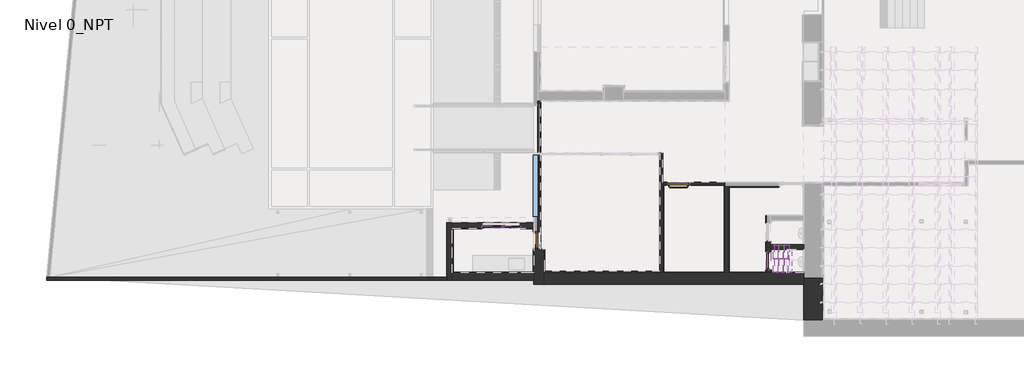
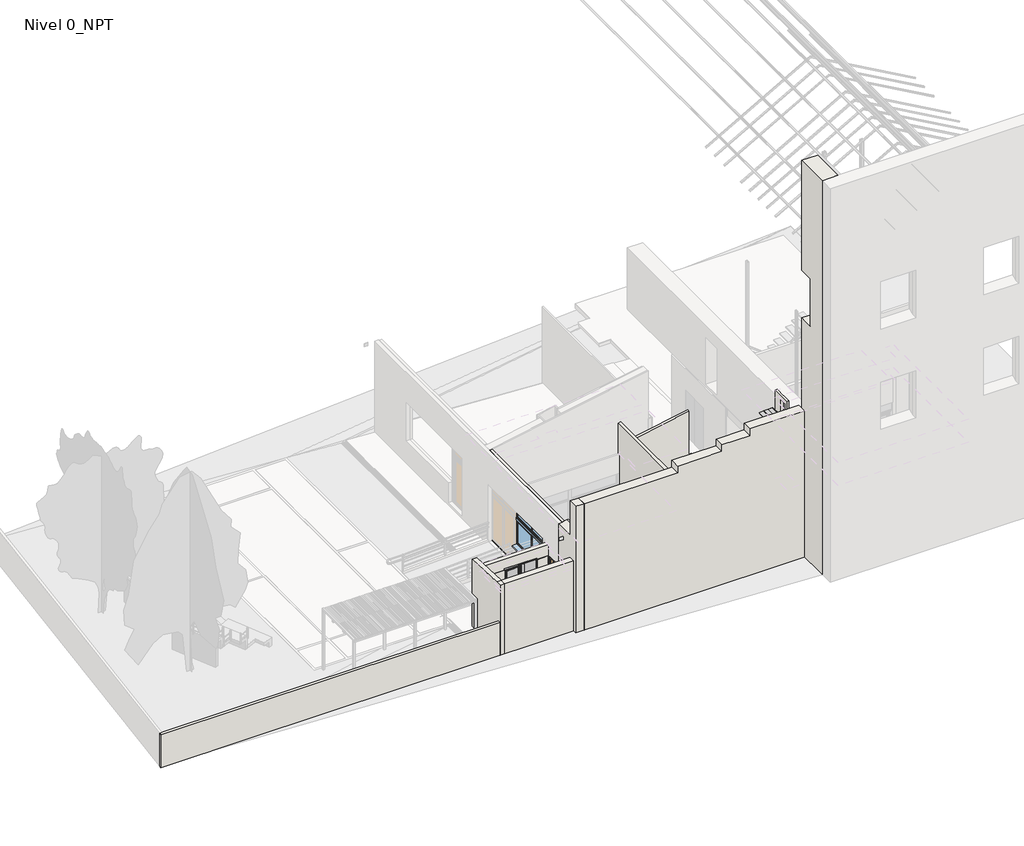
# One storey, part 1 of 10: 38 walls, 24 members, 8 plates, 3 doors, 1 window.
"""IFC4 building model written with IfcOpenShell, lengths in millimetres."""

from ifc_helpers import new_model, si_unit, frame, origin, origin_with_axes, place, context, project, spatial, polyline, outline, extrude, faceted_brep, transform, mapped, element, save
from components import door_fea13e06, door_210x90_cm_49e920ed, arq_pu_int_alu_muro_cortina_c3b06130, montante_rectangular_10x10_23ae108b, montante_rectangular_3x3_a8fc859d, montante_rectangular_3x3_8474d0b0, montante_rectangular_3x3_992bb8ce, montante_rectangular_3x3_9da3d00d, montante_rectangular_3x3_d5ae10cf, montante_rectangular_3x3_59b36da0, montante_rectangular_5x10_a55493a4, montante_rectangular_5x10_4e511d2b, montante_rectangular_5x5_ec66791f, montante_rectangular_5x5_64893cda, plate_993824d2, plate_9f408eec, panel_de_sistema_d2450c0d, window_1fa9ee35

model = new_model("IFC4")

# Units and contexts
model_context = context("Model", 3, world=origin())
ifc_project = project(units=[si_unit("LENGTHUNIT", "METRE", prefix="MILLI")], contexts=[model_context])

# Site, building, storey
site = spatial("IfcSite", under=ifc_project)
building = spatial("IfcBuilding", under=site)
storey = spatial("IfcBuildingStorey", under=building, Name="Nivel 0_NPT", Elevation=0.0)

# Doors
placement = place(None, origin())
door_shape = door_fea13e06(model_context)
element("IfcDoor", 1, ObjectType="ARQ-PU-INT-90x210-Mad-C2 : ARQ-PU-INT-65x210-Mad", at=placement, inside=storey, context=model_context, shape_type="MappedRepresentation", body=[
    mapped(door_shape, transform((-4410.1873738, -2911.3927727, 0.0), x_axis=(0.0, 1.0, 0.0), y_axis=(-1.0, 0.0, 0.0), z_axis=(0.0, 0.0, 1.0))),
])
door_210x90_cm_shape = door_210x90_cm_49e920ed(model_context)
element("IfcDoor", 2, ObjectType="ARQ-PU-IN-Barra accesible : 210x90 cm", at=placement, inside=storey, context=model_context, shape_type="MappedRepresentation", body=[
    mapped(door_210x90_cm_shape, transform((790.6524575, -831.4629444, 0.0), x_axis=(-1.0, 0.0, 0.0), y_axis=(0.0, -1.0, 0.0), z_axis=(0.0, 0.0, 1.0))),
])
arq_pu_int_alu_muro_cortina_shape = arq_pu_int_alu_muro_cortina_c3b06130(model_context)
element("IfcDoor", 3, ObjectType="ARQ-PU-INT-Alu (muro cortina) : ARQ-PU-IN-Alu-sshh", at=placement, inside=storey, context=model_context, shape_type="MappedRepresentation", body=[
    mapped(arq_pu_int_alu_muro_cortina_shape, transform((4064.8126262, -3646.3790831, 320.0), x_axis=(0.0, -1.0, 0.0), y_axis=(1.0, 0.0, 0.0), z_axis=(0.0, 0.0, 1.0))),
])

# Members
montante_rectangular_10x10_shape = montante_rectangular_10x10_23ae108b(model_context)
element("IfcMember", 4, ObjectType="Montante rectangular : 10x10", at=placement, inside=storey, context=model_context, shape_type="MappedRepresentation", body=[
    mapped(montante_rectangular_10x10_shape, transform((-5625.1873738, -2416.3927727, -20.0), x_axis=(1.0, 0.0, 0.0), y_axis=(0.0, -1.0, 0.0), z_axis=(0.0, 0.0, -1.0))),
])
montante_rectangular_3x3_shape = montante_rectangular_3x3_a8fc859d(model_context)
element("IfcMember", 5, ObjectType="Montante rectangular : 3x3", at=placement, inside=storey, context=model_context, shape_type="MappedRepresentation", body=[
    mapped(montante_rectangular_3x3_shape, transform((4631.1307282, -4056.3927727, 5878.4104569), x_axis=(-0.9982048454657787, 0.0, -0.059892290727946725), y_axis=(0.059892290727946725, 0.0, -0.9982048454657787), z_axis=(0.0, -1.0, 0.0))),
])
element("IfcMember", 6, ObjectType="Montante rectangular : 3x3", at=placement, inside=storey, context=model_context, shape_type="MappedRepresentation", body=[
    mapped(montante_rectangular_3x3_shape, transform((4437.9716772, -4056.3927727, 5866.8209139), x_axis=(-0.9982048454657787, 0.0, -0.059892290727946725), y_axis=(0.059892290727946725, 0.0, -0.9982048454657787), z_axis=(0.0, -1.0, 0.0))),
])
element("IfcMember", 7, ObjectType="Montante rectangular : 3x3", at=placement, inside=storey, context=model_context, shape_type="MappedRepresentation", body=[
    mapped(montante_rectangular_3x3_shape, transform((4631.1307282, -3579.3427727, 5878.4104569), x_axis=(-0.9982048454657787, 0.0, -0.059892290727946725), y_axis=(0.059892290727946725, 0.0, -0.9982048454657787), z_axis=(0.0, -1.0, 0.0))),
])
element("IfcMember", 8, ObjectType="Montante rectangular : 3x3", at=placement, inside=storey, context=model_context, shape_type="MappedRepresentation", body=[
    mapped(montante_rectangular_3x3_shape, transform((4437.9716772, -3579.3427727, 5866.8209139), x_axis=(-0.9982048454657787, 0.0, -0.059892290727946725), y_axis=(0.059892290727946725, 0.0, -0.9982048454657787), z_axis=(0.0, -1.0, 0.0))),
])
montante_rectangular_3x3_2_shape = montante_rectangular_3x3_8474d0b0(model_context)
element("IfcMember", 9, ObjectType="Montante rectangular : 3x3", at=placement, inside=storey, context=model_context, shape_type="MappedRepresentation", body=[
    mapped(montante_rectangular_3x3_2_shape, transform((4274.7587716, -3579.3427727, 5857.0281395), x_axis=(0.0, 1.0, 0.0), y_axis=(0.05989229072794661, 0.0, -0.9982048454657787), z_axis=(-0.9982048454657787, 0.0, -0.05989229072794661))),
])
element("IfcMember", 10, ObjectType="Montante rectangular : 3x3", at=placement, inside=storey, context=model_context, shape_type="MappedRepresentation", body=[
    mapped(montante_rectangular_3x3_2_shape, transform((4646.1038009, -3579.3427727, 5879.3088413), x_axis=(0.0, 1.0, 0.0), y_axis=(0.05989229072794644, 0.0, -0.9982048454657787), z_axis=(-0.9982048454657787, 0.0, -0.05989229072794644))),
])
montante_rectangular_3x3_3_shape = montante_rectangular_3x3_992bb8ce(model_context)
element("IfcMember", 11, ObjectType="Montante rectangular : 3x3", at=placement, inside=storey, context=model_context, shape_type="MappedRepresentation", body=[
    mapped(montante_rectangular_3x3_3_shape, transform((4452.9447499, -3579.3427727, 5867.7192982), x_axis=(0.0, 1.0, 0.0), y_axis=(0.05989229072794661, 0.0, -0.9982048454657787), z_axis=(-0.9982048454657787, 0.0, -0.05989229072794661))),
])
montante_rectangular_3x3_4_shape = montante_rectangular_3x3_9da3d00d(model_context)
element("IfcMember", 12, ObjectType="Montante rectangular : 3x3", at=placement, inside=storey, context=model_context, shape_type="MappedRepresentation", body=[
    mapped(montante_rectangular_3x3_4_shape, transform((4824.2897792, -3072.2927727, 5890.0), x_axis=(0.9982048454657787, 0.0, 0.059892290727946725), y_axis=(0.059892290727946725, 0.0, -0.9982048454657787), z_axis=(0.0, 1.0, 0.0))),
])
element("IfcMember", 13, ObjectType="Montante rectangular : 3x3", at=placement, inside=storey, context=model_context, shape_type="MappedRepresentation", body=[
    mapped(montante_rectangular_3x3_4_shape, transform((4244.8126262, -4086.3927727, 5855.2313708), x_axis=(-0.9982048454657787, 0.0, -0.059892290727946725), y_axis=(0.059892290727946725, 0.0, -0.9982048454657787), z_axis=(0.0, -1.0, 0.0))),
])
montante_rectangular_3x3_5_shape = montante_rectangular_3x3_d5ae10cf(model_context)
element("IfcMember", 14, ObjectType="Montante rectangular : 3x3", at=placement, inside=storey, context=model_context, shape_type="MappedRepresentation", body=[
    mapped(montante_rectangular_3x3_5_shape, transform((4794.3436338, -4086.3927727, 5888.2032313), x_axis=(0.0, -1.0, 0.0), y_axis=(0.05989229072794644, 0.0, -0.9982048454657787), z_axis=(0.9982048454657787, 0.0, 0.05989229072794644))),
])
element("IfcMember", 15, ObjectType="Montante rectangular : 3x3", at=placement, inside=storey, context=model_context, shape_type="MappedRepresentation", body=[
    mapped(montante_rectangular_3x3_5_shape, transform((4274.7587716, -3072.2927727, 5857.0281395), x_axis=(0.0, 1.0, 0.0), y_axis=(0.05989229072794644, 0.0, -0.9982048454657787), z_axis=(-0.9982048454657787, 0.0, -0.05989229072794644))),
])
montante_rectangular_3x3_6_shape = montante_rectangular_3x3_59b36da0(model_context)
element("IfcMember", 16, ObjectType="Montante rectangular : 3x3", at=placement, inside=storey, context=model_context, shape_type="MappedRepresentation", body=[
    mapped(montante_rectangular_3x3_6_shape, transform((4631.1307282, -4086.3927727, 5878.4104569), x_axis=(0.0, -1.0, 0.0), y_axis=(0.05989229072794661, 0.0, -0.9982048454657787), z_axis=(0.9982048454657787, 0.0, 0.05989229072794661))),
])
element("IfcMember", 17, ObjectType="Montante rectangular : 3x3", at=placement, inside=storey, context=model_context, shape_type="MappedRepresentation", body=[
    mapped(montante_rectangular_3x3_6_shape, transform((4437.9716772, -3072.2927727, 5866.8209139), x_axis=(0.0, 1.0, 0.0), y_axis=(0.05989229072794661, 0.0, -0.9982048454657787), z_axis=(-0.9982048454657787, 0.0, -0.05989229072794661))),
])
element("IfcMember", 18, ObjectType="Montante rectangular : 3x3", at=placement, inside=storey, context=model_context, shape_type="MappedRepresentation", body=[
    mapped(montante_rectangular_3x3_5_shape, transform((4437.9716772, -4086.3927727, 5866.8209139), x_axis=(0.0, -1.0, 0.0), y_axis=(0.05989229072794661, 0.0, -0.9982048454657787), z_axis=(0.9982048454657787, 0.0, 0.05989229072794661))),
])
element("IfcMember", 19, ObjectType="Montante rectangular : 3x3", at=placement, inside=storey, context=model_context, shape_type="MappedRepresentation", body=[
    mapped(montante_rectangular_3x3_5_shape, transform((4631.1307282, -3072.2927727, 5878.4104569), x_axis=(0.0, 1.0, 0.0), y_axis=(0.05989229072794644, 0.0, -0.9982048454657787), z_axis=(-0.9982048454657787, 0.0, -0.05989229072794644))),
])
element("IfcMember", 20, ObjectType="Montante rectangular : 3x3", at=placement, inside=storey, context=model_context, shape_type="MappedRepresentation", body=[
    mapped(montante_rectangular_3x3_4_shape, transform((4244.8126262, -3579.3427727, 5855.2313708), x_axis=(-0.9982048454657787, 0.0, -0.059892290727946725), y_axis=(0.059892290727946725, 0.0, -0.9982048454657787), z_axis=(0.0, -1.0, 0.0))),
])
element("IfcMember", 21, ObjectType="Montante rectangular : 3x3", at=placement, inside=storey, context=model_context, shape_type="MappedRepresentation", body=[
    mapped(montante_rectangular_3x3_4_shape, transform((4824.2897792, -3579.3427727, 5890.0), x_axis=(0.9982048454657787, 0.0, 0.059892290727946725), y_axis=(0.059892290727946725, 0.0, -0.9982048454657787), z_axis=(0.0, 1.0, 0.0))),
])
montante_rectangular_5x10_shape = montante_rectangular_5x10_a55493a4(model_context)
element("IfcMember", 22, ObjectType="Montante rectangular : 5x10", at=placement, inside=storey, context=model_context, shape_type="MappedRepresentation", body=[
    mapped(montante_rectangular_5x10_shape, transform((-4975.1873738, -2416.3927727, 2130.0), x_axis=(0.0, 0.0, 1.0), y_axis=(0.0, -1.0, 0.0), z_axis=(1.0, 0.0, 0.0))),
])
montante_rectangular_5x10_2_shape = montante_rectangular_5x10_4e511d2b(model_context)
element("IfcMember", 23, ObjectType="Montante rectangular : 5x10", at=placement, inside=storey, context=model_context, shape_type="MappedRepresentation", body=[
    mapped(montante_rectangular_5x10_2_shape, transform((-5625.1873738, -2416.3927727, 2130.0), x_axis=(0.0, 0.0, 1.0), y_axis=(0.0, -1.0, 0.0), z_axis=(1.0, 0.0, 0.0))),
])
montante_rectangular_5x5_shape = montante_rectangular_5x5_ec66791f(model_context)
element("IfcMember", 24, ObjectType="Montante rectangular : 5x5", at=placement, inside=storey, context=model_context, shape_type="MappedRepresentation", body=[
    mapped(montante_rectangular_5x5_shape, transform((4064.8126262, -3321.3927727, 0.0), x_axis=(0.0, 1.0, 0.0), y_axis=(1.0, 0.0, 0.0), z_axis=(0.0, 0.0, -1.0))),
])
element("IfcMember", 25, ObjectType="Montante rectangular : 5x5", at=placement, inside=storey, context=model_context, shape_type="MappedRepresentation", body=[
    mapped(montante_rectangular_5x5_shape, transform((4064.8126262, -3971.3653936, 320.0), x_axis=(0.0, -1.0, 0.0), y_axis=(1.0, 0.0, 0.0), z_axis=(0.0, 0.0, 1.0))),
])
montante_rectangular_5x5_2_shape = montante_rectangular_5x5_64893cda(model_context)
element("IfcMember", 26, ObjectType="Montante rectangular : 5x5", at=placement, inside=storey, context=model_context, shape_type="MappedRepresentation", body=[
    mapped(montante_rectangular_5x5_2_shape, transform((4064.8126262, -3971.3653936, 2100.0), x_axis=(0.0, -1.0, 0.0), y_axis=(1.0, 0.0, 0.0), z_axis=(0.0, 0.0, 1.0))),
])
element("IfcMember", 27, ObjectType="Montante rectangular : 5x5", at=placement, inside=storey, context=model_context, shape_type="MappedRepresentation", body=[
    mapped(montante_rectangular_5x5_2_shape, transform((4064.8126262, -3321.3927727, 320.0), x_axis=(0.0, 1.0, 0.0), y_axis=(1.0, 0.0, 0.0), z_axis=(0.0, 0.0, -1.0))),
])

# Plates
plate_shape = plate_993824d2(model_context)
element("IfcPlate", 28, ObjectType="ARQ-PA-IN-Vidrio Fijo : ARQ-PA-IN-Vidrio Fijo", at=placement, inside=storey, context=model_context, shape_type="MappedRepresentation", body=[
    mapped(plate_shape, transform((-5250.1873738, -2416.3927727, -20.0), x_axis=(1.0, 0.0, 0.0), y_axis=(0.0, 1.0, 0.0), z_axis=(0.0, 0.0, 1.0))),
])
plate_2_shape = plate_9f408eec(model_context)
element("IfcPlate", 29, ObjectType="ARQ-PA-IN-AluVid-Puerta : ARQ-PA-IN-AluVid-Puerta", at=placement, inside=storey, context=model_context, shape_type="MappedRepresentation", body=[
    mapped(plate_2_shape, transform((-6000.1873738, -2416.3927727, -20.0), x_axis=(-1.0, 0.0, 0.0), y_axis=(0.0, -1.0, 0.0), z_axis=(0.0, 0.0, 1.0))),
])
panel_de_sistema_shape = panel_de_sistema_d2450c0d(model_context)
element("IfcPlate", 30, ObjectType="Panel de sistema : Acristalado Superor", at=placement, inside=storey, context=model_context, shape_type="MappedRepresentation", body=[
    mapped(panel_de_sistema_shape, transform((4824.2897792, -3832.8677727, 5890.0), x_axis=(0.0, 1.0, 0.0), y_axis=(0.059892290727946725, 0.0, -0.9982048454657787), z_axis=(-0.9982048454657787, 0.0, -0.059892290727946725))),
])
element("IfcPlate", 31, ObjectType="Panel de sistema : Acristalado Superor", at=placement, inside=storey, context=model_context, shape_type="MappedRepresentation", body=[
    mapped(panel_de_sistema_shape, transform((4631.1307282, -3832.8677727, 5878.4104569), x_axis=(0.0, 1.0, 0.0), y_axis=(0.059892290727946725, 0.0, -0.9982048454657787), z_axis=(-0.9982048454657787, 0.0, -0.059892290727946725))),
])
element("IfcPlate", 32, ObjectType="Panel de sistema : Acristalado Superor", at=placement, inside=storey, context=model_context, shape_type="MappedRepresentation", body=[
    mapped(panel_de_sistema_shape, transform((4437.9716772, -3832.8677727, 5866.8209139), x_axis=(0.0, 1.0, 0.0), y_axis=(0.059892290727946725, 0.0, -0.9982048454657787), z_axis=(-0.9982048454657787, 0.0, -0.059892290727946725))),
])
element("IfcPlate", 33, ObjectType="Panel de sistema : Acristalado Superor", at=placement, inside=storey, context=model_context, shape_type="MappedRepresentation", body=[
    mapped(panel_de_sistema_shape, transform((4824.2897792, -3325.8177727, 5890.0), x_axis=(0.0, 1.0, 0.0), y_axis=(0.059892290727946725, 0.0, -0.9982048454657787), z_axis=(-0.9982048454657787, 0.0, -0.059892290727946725))),
])
element("IfcPlate", 34, ObjectType="Panel de sistema : Acristalado Superor", at=placement, inside=storey, context=model_context, shape_type="MappedRepresentation", body=[
    mapped(panel_de_sistema_shape, transform((4631.1307282, -3325.8177727, 5878.4104569), x_axis=(0.0, 1.0, 0.0), y_axis=(0.059892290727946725, 0.0, -0.9982048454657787), z_axis=(-0.9982048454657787, 0.0, -0.059892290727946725))),
])
element("IfcPlate", 35, ObjectType="Panel de sistema : Acristalado Superor", at=placement, inside=storey, context=model_context, shape_type="MappedRepresentation", body=[
    mapped(panel_de_sistema_shape, transform((4437.9716772, -3325.8177727, 5866.8209139), x_axis=(0.0, 1.0, 0.0), y_axis=(0.059892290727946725, 0.0, -0.9982048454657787), z_axis=(-0.9982048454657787, 0.0, -0.059892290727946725))),
])

# Walls
element("IfcWall", 36, ObjectType="ARQ-MU-IN-15-Gen", at=placement, inside=storey, context=model_context, shape_type="Brep", body=[
    faceted_brep([(2624.8126262, -4086.3927727, 0.0), (2624.8126262, -4066.3927727, 0.0), (2624.8126262, -956.4629444, 0.0), (2624.8126262, -956.4629444, 3060.0), (2624.8126262, -781.4629444, 3060.0), (2624.8126262, -781.4629444, 3210.0), (2624.8126262, -4086.3927727, 3210.0), (2624.8126262, -4086.3927727, 2100.0), (2474.8126262, -4086.3927727, 0.0), (2474.8126262, -4086.3927727, 3210.0), (2474.8126262, -781.4629444, 3210.0), (2474.8126262, -781.4629444, 3060.0), (2474.8126262, -806.4629444, 3060.0), (2474.8126262, -956.4629444, 3060.0), (2474.8126262, -956.4629444, 0.0)], [[[0, 1, 2, 3, 4, 5, 6, 7]], [[8, 9, 10, 11, 12, 13, 14]], [[2, 1, 0, 8, 14]], [[6, 5, 10, 9]], [[0, 7, 6, 9, 8]], [[11, 4, 3, 13, 12]], [[3, 2, 14, 13]], [[5, 4, 11, 10]]]),
])
element("IfcWall", 37, ObjectType="ARQ-MU-EX-20-Gen", at=placement, inside=storey, context=model_context, shape_type="Brep", body=[
    faceted_brep([(-7445.1873738, -4356.3927727, 2980.0), (-7445.1873738, -4356.3927727, -200.0), (-7445.1873738, -4086.3927727, -200.0), (-7445.1873738, -2466.3927727, -200.0), (-7445.1873738, -2266.3927727, -200.0), (-7445.1873738, -2266.3927727, 2552.0), (-7445.1873738, -2266.3927727, 2889.0), (-7445.1873738, -4086.3927727, 2980.0), (-7645.1873738, -4356.3927727, -200.0), (-7645.1873738, -4356.3927727, 1300.0), (-7645.1873738, -4356.3927727, 2980.0), (-7645.1873738, -4086.3927727, 2980.0), (-7645.1873738, -2266.3927727, 2889.0), (-7645.1873738, -2266.3927727, -200.0), (-7645.1873738, -4256.3927727, -200.0)], [[[0, 1, 2, 3, 4, 5, 6, 7]], [[8, 9, 10, 11, 12, 13, 14]], [[6, 5, 4, 13, 12]], [[0, 10, 9, 8, 1]], [[4, 3, 2, 1, 8, 14, 13]], [[0, 7, 11, 10]], [[7, 6, 12, 11]]]),
])
element("IfcWall", 38, ObjectType="ARQ-MU-EX-20-Gen", at=placement, inside=storey, context=model_context, shape_type="Brep", body=[
    faceted_brep([(-7445.1873738, -2466.3927727, -200.0), (-4485.1873738, -2466.3927727, -200.0), (-4485.1873738, -2466.3927727, 2562.0), (-7445.1873738, -2466.3927727, 2562.0), (-6375.1873738, -2466.3927727, -20.0), (-6375.1873738, -2466.3927727, 2130.0), (-4975.1873738, -2466.3927727, 2130.0), (-4975.1873738, -2466.3927727, -20.0), (-4485.1873738, -2266.3927727, -200.0), (-7445.1873738, -2266.3927727, -200.0), (-7445.1873738, -2266.3927727, 2552.0), (-4485.1873738, -2266.3927727, 2552.0), (-6375.1873738, -2266.3927727, 2130.0), (-6375.1873738, -2266.3927727, -20.0), (-4975.1873738, -2266.3927727, -20.0), (-4975.1873738, -2266.3927727, 2130.0)], [[[0, 1, 2, 3], [4, 5, 6, 7]], [[8, 9, 10, 11], [12, 13, 14, 15]], [[1, 0, 9, 8]], [[0, 3, 10, 9]], [[2, 1, 8, 11]], [[3, 2, 11, 10]], [[4, 13, 12, 5]], [[6, 15, 14, 7]], [[13, 4, 7, 14]], [[15, 6, 5, 12]]]),
])
element("IfcWall", 39, ObjectType="ARQ-MU-EX-68-Lad", at=placement, inside=storey, context=model_context, shape_type="Brep", body=[
    faceted_brep([(5354.2897792, -4086.3927727, -200.0), (5354.2897792, -4506.3927727, -200.0), (5354.2897792, -5806.3671234, -200.0), (5354.2897792, -5806.3671234, 17700.0), (5354.2897792, -4296.3927727, 17700.0), (5354.2897792, -4296.3927727, 12700.0), (5354.2897792, -4936.3927727, 12700.0), (5354.2897792, -4936.3927727, 10550.0), (5354.2897792, -4296.3927727, 10550.0), (5354.2897792, -4296.3927727, 5840.0), (5354.2897792, -4296.3927727, -20.0), (5354.2897792, -4086.3927727, -20.0), (6034.2897792, -5806.3671234, -200.0), (6034.2897792, -4086.3927727, -200.0), (6034.2897792, -4086.3927727, -20.0), (6034.2897792, -4296.3927727, -20.0), (6034.2897792, -4296.3927727, 5840.0), (6034.2897792, -4296.3927727, 10550.0), (6034.2897792, -5016.285522, 10550.0), (6034.2897792, -5016.285522, 12700.0), (6034.2897792, -4296.3927727, 12700.0), (6034.2897792, -4296.3927727, 17700.0), (6034.2897792, -5806.3671234, 17700.0), (5644.8126262, -4936.3927727, 12700.0), (5644.8126262, -4936.3927727, 10550.0)], [[[0, 1, 2, 3, 4, 5, 6, 7, 8, 9, 10, 11]], [[12, 13, 14, 15, 16, 17, 18, 19, 20, 21, 22]], [[3, 2, 12, 22]], [[0, 11, 14, 13]], [[6, 5, 20, 19, 23]], [[7, 6, 23, 24]], [[8, 7, 24, 18, 17]], [[2, 1, 0, 13, 12]], [[4, 3, 22, 21]], [[10, 15, 14, 11]], [[15, 10, 9, 8, 17, 16]], [[4, 21, 20, 5]], [[23, 19, 18, 24]]]),
])
element("IfcWall", 40, ObjectType="ARQ-MU-EX-42-Gen", at=placement, inside=storey, context=model_context, shape_type="Brep", body=[
    faceted_brep([(-4125.1873738, -4506.3927727, -200.0), (5354.2897792, -4506.3927727, -200.0), (5354.2897792, -4506.3927727, 6450.0), (2994.2897792, -4506.3927727, 6450.0), (2994.2897792, -4506.3927727, 6150.0), (1794.2897792, -4506.3927727, 6150.0), (1794.2897792, -4506.3927727, 5850.0), (-105.7102208, -4506.3927727, 5850.0), (-105.7102208, -4506.3927727, 5550.0), (-4125.1873738, -4506.3927727, 5550.0), (5354.2897792, -4086.3927727, -200.0), (-4125.1873738, -4086.3927727, -200.0), (-4125.1873738, -4086.3927727, -20.0), (-4125.1873738, -4086.3927727, 0.0), (-4125.1873738, -4086.3927727, 4048.8), (-4125.1873738, -4086.3927727, 5550.0), (-105.7102208, -4086.3927727, 5550.0), (-105.7102208, -4086.3927727, 5850.0), (1794.2897792, -4086.3927727, 5850.0), (1794.2897792, -4086.3927727, 6150.0), (2994.2897792, -4086.3927727, 6150.0), (2994.2897792, -4086.3927727, 6450.0), (5354.2897792, -4086.3927727, 6450.0), (5354.2897792, -4086.3927727, 2100.0), (5354.2897792, -4086.3927727, 0.0), (5354.2897792, -4086.3927727, -20.0)], [[[0, 1, 2, 3, 4, 5, 6, 7, 8, 9]], [[10, 11, 12, 13, 14, 15, 16, 17, 18, 19, 20, 21, 22, 23, 24, 25]], [[0, 9, 15, 14, 13, 12, 11]], [[2, 1, 10, 25, 24, 23, 22]], [[1, 0, 11, 10]], [[3, 2, 22, 21]], [[4, 3, 21, 20]], [[5, 4, 20, 19]], [[6, 5, 19, 18]], [[7, 6, 18, 17]], [[8, 7, 17, 16]], [[9, 8, 16, 15]]]),
])
element("IfcWall", 41, ObjectType="ARQ-MU-IN-17-Gen", at=placement, inside=storey, context=model_context, shape_type="Brep", body=[
    faceted_brep([(4154.8126262, -4086.3927727, 3060.0), (4154.8126262, -4086.3927727, 2100.0), (4154.8126262, -4086.3927727, 0.0), (4154.8126262, -4066.3927727, 0.0), (4154.8126262, -3971.3653936, 0.0), (4154.8126262, -3971.3653936, 2400.0), (4154.8126262, -3971.3653936, 3060.0), (3984.8126262, -4086.3927727, 0.0), (3984.8126262, -4086.3927727, 2100.0), (3984.8126262, -4086.3927727, 3060.0), (3984.8126262, -3971.3653936, 3060.0), (3984.8126262, -3971.3653936, 2400.0), (3984.8126262, -3971.3653936, 0.0), (3984.8126262, -4066.3927727, 0.0)], [[[0, 1, 2, 3, 4, 5, 6]], [[7, 8, 9, 10, 11, 12, 13]], [[4, 3, 2, 7, 13, 12]], [[6, 5, 4, 12, 11, 10]], [[0, 6, 10, 9]], [[0, 9, 8, 7, 2, 1]]]),
])
element("IfcWall", 42, ObjectType="ARQ-MU-IN-16-Gen", at=placement, inside=storey, context=model_context, shape_type="Brep", body=[
    faceted_brep([(5354.2897792, -3066.3927727, 0.0), (4144.8126262, -3066.3927727, 0.0), (4144.8126262, -3066.3927727, 3060.0), (5354.2897792, -3066.3927727, 3060.0), (5242.2635825, -3066.3927727, 2962.0), (4842.2635825, -3066.3927727, 2962.0), (4842.2635825, -3066.3927727, 2812.0), (5242.2635825, -3066.3927727, 2812.0), (5354.2897792, -3226.3927727, 0.0), (5354.2897792, -3226.3927727, 3060.0), (4154.8126262, -3226.3927727, 3060.0), (4154.8126262, -3226.3927727, 2100.0), (4154.8126262, -3226.3927727, 0.0), (4174.8126262, -3226.3927727, 0.0), (5242.2635825, -3226.3927727, 2962.0), (5242.2635825, -3226.3927727, 2812.0), (4842.2635825, -3226.3927727, 2812.0), (4842.2635825, -3226.3927727, 2962.0), (4144.8126262, -3146.3927727, 0.0), (4144.8126262, -3146.3927727, 3060.0), (4154.8126262, -3146.3927727, 0.0), (4154.8126262, -3146.3927727, 3060.0)], [[[0, 1, 2, 3], [4, 5, 6, 7]], [[8, 9, 10, 11, 12, 13], [14, 15, 16, 17]], [[0, 3, 9, 8]], [[2, 1, 18, 19]], [[1, 0, 8, 13, 12, 20, 18]], [[3, 2, 19, 21, 10, 9]], [[18, 20, 21, 19]], [[20, 12, 11, 10, 21]], [[5, 4, 14, 17]], [[6, 5, 17, 16]], [[7, 6, 16, 15]], [[4, 7, 15, 14]]]),
])
element("IfcWall", 43, ObjectType="ARQ-MU-IN-16-Gen", at=placement, inside=storey, context=model_context, shape_type="Brep", body=[
    faceted_brep([(4144.8126262, -3146.3927727, 0.0), (4144.8126262, -3066.3927727, 0.0), (4144.8126262, -2931.3927727, 0.0), (4144.8126262, -2931.3927727, 2400.0), (4144.8126262, -2931.3927727, 3060.0), (4144.8126262, -3066.3927727, 3060.0), (4144.8126262, -3146.3927727, 3060.0), (3984.8126262, -3146.3927727, 0.0), (3984.8126262, -3146.3927727, 3060.0), (3984.8126262, -2931.3927727, 3060.0), (3984.8126262, -2931.3927727, 0.0)], [[[0, 1, 2, 3, 4, 5, 6]], [[7, 8, 9, 10]], [[2, 1, 0, 7, 10]], [[4, 3, 2, 10, 9]], [[6, 5, 4, 9, 8]], [[0, 6, 8, 7]]]),
])
element("IfcWall", 44, ObjectType="ARQ-MU-EX-36-Gen", at=placement, inside=storey, context=model_context, shape_type="Brep", body=[
    faceted_brep([(-4485.1873738, -3236.3927727, 3984.0), (-4485.1873738, -3236.3927727, 2100.0), (-4485.1873738, -3236.3927727, 0.0), (-4485.1873738, -3236.3927727, -200.0), (-4485.1873738, -4086.3927727, -200.0), (-4485.1873738, -4356.3927727, -200.0), (-4485.1873738, -4506.3927727, -200.0), (-4485.1873738, -4506.3927727, 5550.0), (-4485.1873738, -4086.3927727, 5550.0), (-4485.1873738, -4086.3927727, 3984.0), (-4125.1873738, -3236.3927727, -200.0), (-4125.1873738, -3236.3927727, 4048.8), (-4125.1873738, -4086.3927727, 4048.8), (-4125.1873738, -4086.3927727, 5550.0), (-4125.1873738, -4506.3927727, 5550.0), (-4125.1873738, -4506.3927727, -200.0), (-4125.1873738, -4086.3927727, -200.0), (-4335.1873738, -3236.3927727, -200.0), (-4235.1873738, -3236.3927727, 4029.0), (-4335.1873738, -3236.3927727, 4011.0)], [[[0, 1, 2, 3, 4, 5, 6, 7, 8, 9]], [[10, 11, 12, 13, 14, 15, 16]], [[6, 5, 4, 3, 17, 10, 16, 15]], [[8, 7, 14, 13]], [[8, 13, 12, 9]], [[0, 9, 12, 11, 18, 19]], [[7, 6, 15, 14]], [[0, 19, 18, 11, 10, 17, 3, 2, 1]]]),
])
element("IfcWall", 45, ObjectType="ARQ-MU-EX-10-Gen", at=placement, inside=storey, context=model_context, shape_type="Brep", body=[
    faceted_brep([(-7645.1873738, -4256.3927727, -200.0), (-22128.8255038, -4256.3927727, -200.0), (-22229.281246, -4256.3927727, -200.0), (-22229.281246, -4256.3927727, 1300.0), (-22128.8255038, -4256.3927727, 1300.0), (-7645.1873738, -4256.3927727, 1300.0), (-7645.1873738, -4356.3927727, -200.0), (-7645.1873738, -4356.3927727, 1300.0), (-22238.8392862, -4356.3927727, 1300.0), (-22238.8392862, -4356.3927727, -200.0)], [[[0, 1, 2, 3, 4, 5]], [[6, 7, 8, 9]], [[2, 1, 0, 6, 9]], [[5, 4, 3, 8, 7]], [[3, 2, 9, 8]], [[0, 5, 7, 6]]]),
])
element("IfcWall", 46, ObjectType="ARQ-MU-IN-17-Gen", at=placement, inside=storey, context=model_context, shape_type="Brep", body=[
    faceted_brep([(3984.8126262, -3146.3927727, 0.0), (3984.8126262, -3321.3927727, 0.0), (3984.8126262, -3321.3927727, 2400.0), (3984.8126262, -3321.3927727, 3060.0), (3984.8126262, -3146.3927727, 3060.0), (4154.8126262, -3146.3927727, 0.0), (4154.8126262, -3146.3927727, 3060.0), (4154.8126262, -3226.3927727, 3060.0), (4154.8126262, -3321.3927727, 3060.0), (4154.8126262, -3321.3927727, 2400.0), (4154.8126262, -3321.3927727, 0.0), (4154.8126262, -3226.3927727, 0.0), (4144.8126262, -3146.3927727, 0.0), (4144.8126262, -3146.3927727, 3060.0)], [[[0, 1, 2, 3, 4]], [[5, 6, 7, 8, 9, 10, 11]], [[1, 0, 12, 5, 11, 10]], [[3, 2, 1, 10, 9, 8]], [[4, 3, 8, 7, 6, 13]], [[0, 4, 13, 6, 5, 12]]]),
])
element("IfcWall", 47, ObjectType="ARQ-MU-EX-27-Gen", at=placement, inside=storey, context=model_context, shape_type="SweptSolid", body=[
    extrude(outline(polyline([(-4485.1873738, -4356.3927727), (-7445.1873738, -4356.3927727), (-7445.1873738, -4086.3927727), (-4485.1873738, -4086.3927727), (-4485.1873738, -4356.3927727)])), frame((0.0, 0.0, -200.0), z_axis=(0.0, 0.0, 1.0), x_axis=(1.0, 0.0, 0.0)), (0.0, 0.0, 1.0), 3180.0),
])
element("IfcWall", 48, ObjectType="ARQ-MU-IN-12-Ye-T7", at=placement, inside=storey, context=model_context, shape_type="Brep", body=[
    faceted_brep([(226.6524575, -4086.3927727, -20.0), (226.6524575, 293.8880157, -20.0), (226.6524575, 293.8880157, 4832.1311696), (226.6524575, -781.4629444, 4832.1311696), (226.6524575, -881.4629444, 4832.1311696), (226.6524575, -4086.3927727, 4832.1311696), (106.6524575, -4086.3927727, -20.0), (106.6524575, -4086.3927727, 4810.5311696), (106.6524575, -4036.3927727, 4810.5311696), (106.6524575, 293.8880157, 4810.5311696), (106.6524575, 293.8880157, 3450.0), (106.6524575, 293.8880157, 2600.0), (106.6524575, 293.8880157, -20.0), (106.6524575, -4036.3927727, -20.0)], [[[0, 1, 2, 3, 4, 5]], [[6, 7, 8, 9, 10, 11, 12, 13]], [[1, 0, 6, 13, 12]], [[0, 5, 7, 6]], [[5, 4, 3, 2, 9, 8, 7]], [[2, 1, 12, 11, 10, 9]]]),
])
element("IfcWall", 49, ObjectType="ARQ-RE-IN-5-Ye-M2", at=placement, inside=storey, context=model_context, shape_type="Brep", body=[
    faceted_brep([(106.6524575, -4036.3927727, -20.0), (-4075.1873738, -4036.3927727, -20.0), (-4125.1873738, -4036.3927727, -20.0), (-4125.1873738, -4036.3927727, 4048.8), (-4075.1873738, -4036.3927727, 4057.8), (106.6524575, -4036.3927727, 4810.5311696), (106.6524575, -4086.3927727, -20.0), (106.6524575, -4086.3927727, 4810.5311696), (-4125.1873738, -4086.3927727, 4048.8), (-4125.1873738, -4086.3927727, -20.0)], [[[0, 1, 2, 3, 4, 5]], [[6, 7, 8, 9]], [[0, 5, 7, 6]], [[2, 1, 0, 6, 9]], [[5, 4, 3, 8, 7]], [[3, 2, 9, 8]]]),
])
element("IfcWall", 50, ObjectType="ARQ-RE-IN-5-Ye-M2", at=placement, inside=storey, context=model_context, shape_type="SweptSolid", body=[
    extrude(outline(polyline([(-20.0, -4075.1873738), (4057.8, -4075.1873738), (4048.8, -4125.1873738), (-20.0, -4125.1873738), (-20.0, -4075.1873738)])), frame((0.0, -4036.3927727, 0.0), z_axis=(0.0, 1.0, 0.0), x_axis=(0.0, 0.0, 1.0)), (0.0, 0.0, 1.0), 800.0),
])
element("IfcWall", 51, ObjectType="ARQ-RE-IN-10-Ye-M6", at=placement, inside=storey, context=model_context, shape_type="Brep", body=[
    faceted_brep([(-4235.1873738, -3236.3927727, -20.0), (-4235.1873738, 2154.5844917, -20.0), (-4235.1873738, 2154.5844917, 4029.0), (-4235.1873738, -3236.3927727, 4029.0), (-4235.1873738, -3236.3927727, 2100.0), (-4235.1873738, -2586.3927727, 2100.0), (-4235.1873738, -2586.3927727, 0.0), (-4235.1873738, -3236.3927727, 0.0), (-4235.1873738, -2046.1124434, 880.0), (-4235.1873738, -2046.1124434, 2600.0), (-4235.1873738, 193.8880157, 2600.0), (-4235.1873738, 293.8880157, 2600.0), (-4235.1873738, 2093.887883, 2600.0), (-4235.1873738, 2093.887883, 0.0), (-4235.1873738, 193.887883, 0.0), (-4235.1873738, 193.887883, 880.0), (-4335.1873738, 2154.5844917, -20.0), (-4335.1873738, -3236.3927727, -20.0), (-4335.1873738, -3236.3927727, 0.0), (-4335.1873738, -2586.3927727, 0.0), (-4335.1873738, -2586.3927727, 2100.0), (-4335.1873738, -3236.3927727, 2100.0), (-4335.1873738, -3236.3927727, 4011.0), (-4335.1873738, 2154.5844917, 4011.0), (-4335.1873738, -2046.1124434, 2600.0), (-4335.1873738, -2046.1124434, 880.0), (-4335.1873738, 193.8875566, 880.0), (-4335.1873738, 193.887883, 0.0), (-4335.1873738, 2093.887883, 0.0), (-4335.1873738, 2093.887883, 2600.0)], [[[0, 1, 2, 3, 4, 5, 6, 7], [8, 9, 10, 11, 12, 13, 14, 15]], [[16, 17, 18, 19, 20, 21, 22, 23], [24, 25, 26, 27, 28, 29]], [[2, 1, 16, 23]], [[3, 2, 23, 22]], [[1, 0, 17, 16]], [[17, 0, 7, 18]], [[3, 22, 21, 4]], [[8, 25, 24, 9]], [[9, 24, 29, 12, 11, 10]], [[25, 8, 15, 26]], [[28, 13, 12, 29]], [[14, 27, 26, 15]], [[13, 28, 27, 14]], [[20, 5, 4, 21]], [[5, 20, 19, 6]], [[6, 19, 18, 7]]]),
])
element("IfcWall", 52, ObjectType="ARQ-MU-IN-10-Ye-T6", at=placement, inside=storey, context=model_context, shape_type="Brep", body=[
    faceted_brep([(226.6524575, -781.4629444, 0.0), (226.6524575, -781.4629444, 4832.1311696), (2474.8126262, -781.4629444, 5236.8), (2474.8126262, -781.4629444, 3210.0), (2474.8126262, -781.4629444, 3060.0), (2474.8126262, -781.4629444, 0.0), (1240.6524575, -781.4629444, 0.0), (1240.6524575, -781.4629444, 2100.0), (340.6524575, -781.4629444, 2100.0), (340.6524575, -781.4629444, 0.0), (331.6622116, -781.4629444, 0.0), (226.6524575, -881.4629444, 4832.1311696), (226.6524575, -881.4629444, 0.0), (331.6622116, -881.4629444, 0.0), (340.6524575, -881.4629444, 0.0), (340.6524575, -881.4629444, 2100.0), (1240.6524575, -881.4629444, 2100.0), (1240.6524575, -881.4629444, 0.0), (2474.8126262, -881.4629444, 0.0), (2474.8126262, -881.4629444, 5236.8), (2474.8126262, -806.4629444, 0.0)], [[[0, 1, 2, 3, 4, 5, 6, 7, 8, 9, 10]], [[11, 12, 13, 14, 15, 16, 17, 18, 19]], [[1, 0, 12, 11]], [[13, 10, 9, 14]], [[5, 20, 18, 17, 6]], [[0, 10, 13, 12]], [[2, 1, 11, 19]], [[16, 7, 6, 17]], [[7, 16, 15, 8]], [[8, 15, 14, 9]], [[5, 4, 3, 2, 19, 18, 20]]]),
])
element("IfcWall", 53, ObjectType="ARQ-RE-IN-2-Cer", at=placement, inside=storey, context=model_context, shape_type="Brep", body=[
    faceted_brep([(2454.8126262, -881.4629444, 0.0), (2454.8126262, -901.4629444, 0.0), (2454.8126262, -4066.3927727, 0.0), (2454.8126262, -4086.3927727, 0.0), (2454.8126262, -4086.3927727, 2100.0), (2454.8126262, -4066.3927727, 2100.0), (2454.8126262, -901.4629444, 2100.0), (2454.8126262, -881.4629444, 2100.0), (2474.8126262, -881.4629444, 0.0), (2474.8126262, -881.4629444, 2100.0), (2474.8126262, -4086.3927727, 2100.0), (2474.8126262, -4086.3927727, 0.0)], [[[0, 1, 2, 3, 4, 5, 6, 7]], [[8, 9, 10, 11]], [[3, 2, 1, 0, 8, 11]], [[7, 6, 5, 4, 10, 9]], [[4, 3, 11, 10]], [[0, 7, 9, 8]]]),
])
element("IfcWall", 54, ObjectType="ARQ-RE-IN-2-Cer", at=placement, inside=storey, context=model_context, shape_type="Brep", body=[
    faceted_brep([(2454.8126262, -4066.3927727, 0.0), (246.6524575, -4066.3927727, 0.0), (226.6524575, -4066.3927727, 0.0), (226.6524575, -4066.3927727, 2100.0), (246.6524575, -4066.3927727, 2100.0), (2454.8126262, -4066.3927727, 2100.0), (2454.8126262, -4086.3927727, 0.0), (2454.8126262, -4086.3927727, 2100.0), (226.6524575, -4086.3927727, 2100.0), (226.6524575, -4086.3927727, 0.0)], [[[0, 1, 2, 3, 4, 5]], [[6, 7, 8, 9]], [[2, 1, 0, 6, 9]], [[5, 4, 3, 8, 7]], [[3, 2, 9, 8]], [[0, 5, 7, 6]]]),
])
element("IfcWall", 55, ObjectType="ARQ-RE-IN-1.4-Cer", at=placement, inside=storey, context=model_context, shape_type="Brep", body=[
    faceted_brep([(340.6524575, -881.4629444, 0.0), (226.6524575, -881.4629444, 0.0), (226.6524575, -881.4629444, 2100.0), (340.6524575, -881.4629444, 2100.0), (340.6524575, -895.4629444, 0.0), (340.6524575, -895.4629444, 2100.0), (246.6524575, -895.4629444, 2100.0), (226.6524575, -895.4629444, 2100.0), (226.6524575, -895.4629444, 0.0), (246.6524575, -895.4629444, 0.0)], [[[0, 1, 2, 3]], [[4, 5, 6, 7, 8, 9]], [[1, 0, 4, 9, 8]], [[3, 2, 7, 6, 5]], [[0, 3, 5, 4]], [[2, 1, 8, 7]]]),
])
element("IfcWall", 56, ObjectType="ARQ-RE-IN-2-Cer", at=placement, inside=storey, context=model_context, shape_type="SweptSolid", body=[
    extrude(outline(polyline([(226.6524575, -4066.3927727), (226.6524575, -895.4629444), (246.6524575, -895.4629444), (246.6524575, -4066.3927727), (226.6524575, -4066.3927727)])), origin_with_axes(), (0.0, 0.0, 1.0), 2100.0),
])
element("IfcWall", 57, ObjectType="ARQ-RE-IN-2-Cer", at=placement, inside=storey, context=model_context, shape_type="SweptSolid", body=[
    extrude(outline(polyline([(1240.6524575, -881.4629444), (2454.8126262, -881.4629444), (2454.8126262, -901.4629444), (1240.6524575, -901.4629444), (1240.6524575, -881.4629444)])), origin_with_axes(), (0.0, 0.0, 1.0), 2100.0),
])
element("IfcWall", 58, ObjectType="ARQ-MU-IN-10-Ye-T8", at=placement, inside=storey, context=model_context, shape_type="Brep", body=[
    faceted_brep([(4924.2897792, -4086.3927727, 2812.0), (4924.2897792, -3706.3927727, 2812.0), (4924.2897792, -3606.3927727, 2812.0), (4924.2897792, -3226.3927727, 2812.0), (4924.2897792, -3226.3927727, 5440.0), (4924.2897792, -3226.3927727, 6794.0561294), (4924.2897792, -3326.3927727, 6794.0561294), (4924.2897792, -3606.3927727, 6794.0561294), (4924.2897792, -3706.3927727, 6794.0561294), (4924.2897792, -3956.3927727, 6794.0561294), (4924.2897792, -4056.3927727, 6794.0561294), (4924.2897792, -4086.3927727, 6794.0561294), (4924.2897792, -3956.3927727, 6024.5951745), (4924.2897792, -3956.3927727, 6450.0), (4924.2897792, -3956.3927727, 6624.5951745), (4924.2897792, -3656.3927727, 6624.5951745), (4924.2897792, -3656.3927727, 6024.5951745), (4824.2897792, -4086.3927727, 2812.0), (4824.2897792, -4086.3927727, 6788.0561294), (4824.2897792, -3226.3927727, 6788.0561294), (4824.2897792, -3226.3927727, 5950.0), (4824.2897792, -3226.3927727, 5890.0), (4824.2897792, -3226.3927727, 2812.0), (4824.2897792, -3956.3927727, 6024.5951745), (4824.2897792, -3656.3927727, 6024.5951745), (4824.2897792, -3656.3927727, 6624.5951745), (4824.2897792, -3956.3927727, 6624.5951745)], [[[0, 1, 2, 3, 4, 5, 6, 7, 8, 9, 10, 11], [12, 13, 14, 15, 16]], [[17, 18, 19, 20, 21, 22], [23, 24, 25, 26]], [[3, 2, 1, 0, 17, 22]], [[5, 4, 3, 22, 21, 20, 19]], [[0, 11, 18, 17]], [[11, 10, 9, 8, 7, 6, 5, 19, 18]], [[14, 13, 12, 23, 26]], [[15, 14, 26, 25]], [[16, 15, 25, 24]], [[12, 16, 24, 23]]]),
])
element("IfcWall", 59, ObjectType="ARQ-RE-IN-2-Cer", at=placement, inside=storey, context=model_context, shape_type="Brep", body=[
    faceted_brep([(-4485.1873738, -2586.3927727, -20.0), (-4485.1873738, -2466.3927727, -20.0), (-4485.1873738, -2466.3927727, 2080.0), (-4485.1873738, -2586.3927727, 2080.0), (-4505.1873738, -2586.3927727, -20.0), (-4505.1873738, -2586.3927727, 2080.0), (-4505.1873738, -2486.3927727, 2080.0), (-4505.1873738, -2466.3927727, 2080.0), (-4505.1873738, -2466.3927727, -20.0), (-4505.1873738, -2486.3927727, -20.0)], [[[0, 1, 2, 3]], [[4, 5, 6, 7, 8, 9]], [[1, 0, 4, 9, 8]], [[3, 2, 7, 6, 5]], [[0, 3, 5, 4]], [[2, 1, 8, 7]]]),
])
element("IfcWall", 60, ObjectType="ARQ-RE-IN-2-Cer", at=placement, inside=storey, context=model_context, shape_type="Brep", body=[
    faceted_brep([(-4485.1873738, -4086.3927727, -20.0), (-4485.1873738, -3236.3927727, -20.0), (-4485.1873738, -3236.3927727, 2080.0), (-4485.1873738, -4086.3927727, 2080.0), (-4505.1873738, -4086.3927727, -20.0), (-4505.1873738, -4086.3927727, 2080.0), (-4505.1873738, -4066.3927727, 2080.0), (-4505.1873738, -3236.3927727, 2080.0), (-4505.1873738, -3236.3927727, -20.0), (-4505.1873738, -4066.3927727, -20.0)], [[[0, 1, 2, 3]], [[4, 5, 6, 7, 8, 9]], [[1, 0, 4, 9, 8]], [[2, 1, 8, 7]], [[3, 2, 7, 6, 5]], [[0, 3, 5, 4]]]),
])
element("IfcWall", 61, ObjectType="ARQ-RE-IN-2-Cer", at=placement, inside=storey, context=model_context, shape_type="SweptSolid", body=[
    extrude(outline(polyline([(-7425.1873738, -4066.3927727), (-4505.1873738, -4066.3927727), (-4505.1873738, -4086.3927727), (-7445.1873738, -4086.3927727), (-7425.1873738, -4066.3927727)])), frame((0.0, 0.0, -20.0), z_axis=(0.0, 0.0, 1.0), x_axis=(1.0, 0.0, 0.0)), (0.0, 0.0, 1.0), 2100.0),
])
element("IfcWall", 62, ObjectType="ARQ-RE-IN-2-Cer", at=placement, inside=storey, context=model_context, shape_type="Brep", body=[
    faceted_brep([(-7425.1873738, -4066.3927727, -20.0), (-7425.1873738, -2486.3927727, -20.0), (-7425.1873738, -2466.3927727, -20.0), (-7425.1873738, -2466.3927727, 2080.0), (-7425.1873738, -2486.3927727, 2080.0), (-7425.1873738, -4066.3927727, 2080.0), (-7445.1873738, -4086.3927727, -20.0), (-7445.1873738, -4086.3927727, 2080.0), (-7445.1873738, -2466.3927727, 2080.0), (-7445.1873738, -2466.3927727, -20.0)], [[[0, 1, 2, 3, 4, 5]], [[6, 7, 8, 9]], [[2, 1, 0, 6, 9]], [[5, 4, 3, 8, 7]], [[3, 2, 9, 8]], [[0, 5, 7, 6]]]),
])
element("IfcWall", 63, ObjectType="ARQ-RE-IN-2-Cer", at=placement, inside=storey, context=model_context, shape_type="SweptSolid", body=[
    extrude(outline(polyline([(-6375.1873738, -2486.3927727), (-7425.1873738, -2486.3927727), (-7425.1873738, -2466.3927727), (-6375.1873738, -2466.3927727), (-6375.1873738, -2486.3927727)])), frame((0.0, 0.0, -20.0), z_axis=(0.0, 0.0, 1.0), x_axis=(1.0, 0.0, 0.0)), (0.0, 0.0, 1.0), 2100.0),
])
element("IfcWall", 64, ObjectType="ARQ-RE-IN-2-Cer", at=placement, inside=storey, context=model_context, shape_type="SweptSolid", body=[
    extrude(outline(polyline([(-4975.1873738, -2466.3927727), (-4505.1873738, -2466.3927727), (-4505.1873738, -2486.3927727), (-4975.1873738, -2486.3927727), (-4975.1873738, -2466.3927727)])), frame((0.0, 0.0, -20.0), z_axis=(0.0, 0.0, 1.0), x_axis=(1.0, 0.0, 0.0)), (0.0, 0.0, 1.0), 2100.0),
])
element("IfcWall", 65, ObjectType="ARQ-MU-IN-17-Gen", at=placement, inside=storey, context=model_context, shape_type="SweptSolid", body=[
    extrude(outline(polyline([(3984.8126262, -3971.3653936), (3984.8126262, -3321.3927727), (4154.8126262, -3321.3927727), (4154.8126262, -3971.3653936), (3984.8126262, -3971.3653936)])), frame((0.0, 0.0, 2400.0), z_axis=(0.0, 0.0, 1.0), x_axis=(1.0, 0.0, 0.0)), (0.0, 0.0, 1.0), 660.0),
])
element("IfcWall", 66, ObjectType="ARQ-RE-IN-2-Cer", at=placement, inside=storey, context=model_context, shape_type="SweptSolid", body=[
    extrude(outline(polyline([(3964.8126262, -2281.3927727), (3964.8126262, -2006.3927727), (3984.8126262, -2006.3927727), (3984.8126262, -2281.3927727), (3964.8126262, -2281.3927727)])), origin_with_axes(), (0.0, 0.0, 1.0), 2100.0),
])
element("IfcWall", 67, ObjectType="ARQ-RE-IN-2-Cer", at=placement, inside=storey, context=model_context, shape_type="SweptSolid", body=[
    extrude(outline(polyline([(3964.8126262, -3321.3927727), (3964.8126262, -2931.3927727), (3984.8126262, -2931.3927727), (3984.8126262, -3321.3927727), (3964.8126262, -3321.3927727)])), origin_with_axes(), (0.0, 0.0, 1.0), 2100.0),
])
element("IfcWall", 68, ObjectType="ARQ-RE-IN-2-Cer", at=placement, inside=storey, context=model_context, shape_type="SweptSolid", body=[
    extrude(outline(polyline([(4154.8126262, -4066.3927727), (5354.2897792, -4066.3927727), (5354.2897792, -4086.3927727), (4154.8126262, -4086.3927727), (4154.8126262, -4066.3927727)])), origin_with_axes(), (0.0, 0.0, 1.0), 2100.0),
])
element("IfcWall", 69, ObjectType="ARQ-RE-IN-2-Cer", at=placement, inside=storey, context=model_context, shape_type="SweptSolid", body=[
    extrude(outline(polyline([(4174.8126262, -3971.3653936), (4174.8126262, -4086.3927727), (4154.8126262, -4086.3927727), (4154.8126262, -3971.3653936), (4174.8126262, -3971.3653936)])), origin_with_axes(), (0.0, 0.0, 1.0), 2100.0),
])
element("IfcWall", 70, ObjectType="ARQ-RE-IN-2-Cer", at=placement, inside=storey, context=model_context, shape_type="SweptSolid", body=[
    extrude(outline(polyline([(3964.8126262, -4086.3927727), (3964.8126262, -3971.3653936), (3984.8126262, -3971.3653936), (3984.8126262, -4086.3927727), (3964.8126262, -4086.3927727)])), origin_with_axes(), (0.0, 0.0, 1.0), 2100.0),
])
element("IfcWall", 71, ObjectType="ARQ-RE-IN-2-Cer", at=placement, inside=storey, context=model_context, shape_type="SweptSolid", body=[
    extrude(outline(polyline([(2624.8126262, -4066.3927727), (3984.8126262, -4066.3927727), (3984.8126262, -4086.3927727), (2624.8126262, -4086.3927727), (2624.8126262, -4066.3927727)])), origin_with_axes(), (0.0, 0.0, 1.0), 2100.0),
])
element("IfcWall", 72, ObjectType="ARQ-RE-IN-2-Cer", at=placement, inside=storey, context=model_context, shape_type="Brep", body=[
    faceted_brep([(2644.8126262, -4086.3927727, 0.0), (2644.8126262, -976.4629444, 0.0), (2644.8126262, -956.4629444, 0.0), (2644.8126262, -956.4629444, 2100.0), (2644.8126262, -976.4629444, 2100.0), (2644.8126262, -4086.3927727, 2100.0), (2624.8126262, -4086.3927727, 0.0), (2624.8126262, -4086.3927727, 2100.0), (2624.8126262, -956.4629444, 2100.0), (2624.8126262, -956.4629444, 0.0)], [[[0, 1, 2, 3, 4, 5]], [[6, 7, 8, 9]], [[2, 1, 0, 6, 9]], [[5, 4, 3, 8, 7]], [[0, 5, 7, 6]], [[3, 2, 9, 8]]]),
])
element("IfcWall", 73, ObjectType="ARQ-RE-IN-2-Cer", at=placement, inside=storey, context=model_context, shape_type="SweptSolid", body=[
    extrude(outline(polyline([(4454.8126262, -976.4629444), (2644.8126262, -976.4629444), (2644.8126262, -956.4629444), (4454.8126262, -956.4629444), (4454.8126262, -976.4629444)])), origin_with_axes(), (0.0, 0.0, 1.0), 2100.0),
])

# Window
window_shape = window_1fa9ee35(model_context)
element("IfcWindow", 74, ObjectType="ARQ-VE-EX-234x165-Al-A4 : ARQ-VE-EX-224x165-Al-A4", at=placement, inside=storey, context=model_context, shape_type="MappedRepresentation", body=[
    mapped(window_shape, transform((-4285.1873738, -926.1124434, 0.0), x_axis=(0.0, 1.0, 0.0), y_axis=(-1.0, 0.0, 0.0), z_axis=(0.0, 0.0, 1.0))),
])

save(model, "model.ifc")
